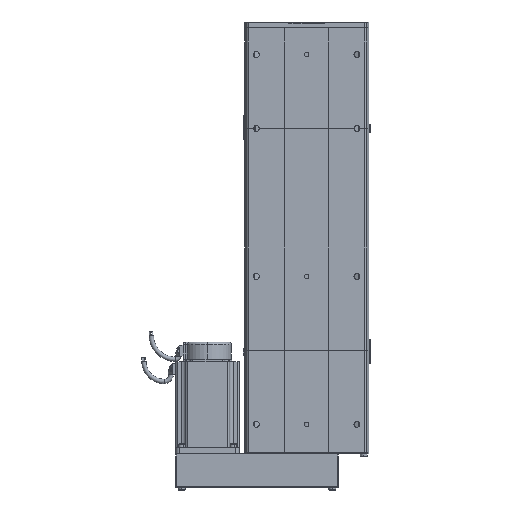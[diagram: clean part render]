
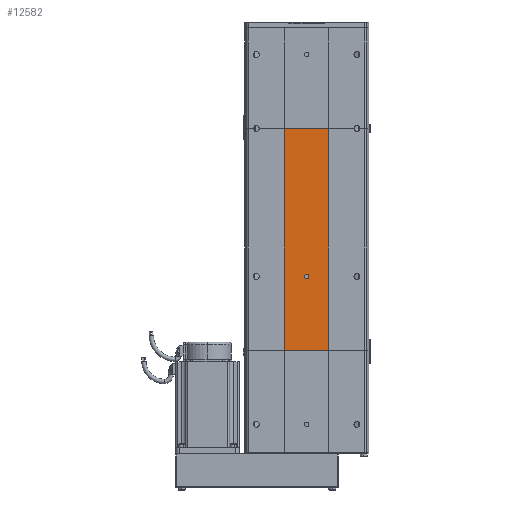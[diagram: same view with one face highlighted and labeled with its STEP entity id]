
A CAD part, front view. The second image highlights one B-rep face of the part: STEP entity #12582.
In plain terms, the highlighted planar face has unit normal (0, -1, 0).
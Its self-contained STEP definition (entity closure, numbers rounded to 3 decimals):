
#8458 = VERTEX_POINT ( 'NONE', #39665 ) ;
#8482 = VERTEX_POINT ( 'NONE', #39872 ) ;
#8485 = EDGE_CURVE ( 'NONE', #8458, #8482, #39785, .T. ) ;
#11749 = VERTEX_POINT ( 'NONE', #32986 ) ;
#12095 = EDGE_CURVE ( 'NONE', #12237, #11749, #33592, .T. ) ;
#12237 = VERTEX_POINT ( 'NONE', #33915 ) ;
#12577 = EDGE_LOOP ( 'NONE', ( #12711, #12585 ) ) ;
#12578 = EDGE_CURVE ( 'NONE', #11749, #26756, #34432, .T. ) ;
#12581 = EDGE_LOOP ( 'NONE', ( #12697, #12782, #12777, #12788 ) ) ;
#12582 = ADVANCED_FACE ( 'NONE', ( #34492, #34484 ), #34469, .F. ) ;
#12583 = EDGE_CURVE ( 'NONE', #8482, #8458, #34460, .T. ) ;
#12585 = ORIENTED_EDGE ( 'NONE', *, *, #8485, .F. ) ;
#12697 = ORIENTED_EDGE ( 'NONE', *, *, #26811, .T. ) ;
#12711 = ORIENTED_EDGE ( 'NONE', *, *, #12583, .F. ) ;
#12777 = ORIENTED_EDGE ( 'NONE', *, *, #12095, .F. ) ;
#12782 = ORIENTED_EDGE ( 'NONE', *, *, #12578, .F. ) ;
#12784 = EDGE_CURVE ( 'NONE', #12237, #26611, #34858, .T. ) ;
#12788 = ORIENTED_EDGE ( 'NONE', *, *, #12784, .T. ) ;
#26611 = VERTEX_POINT ( 'NONE', #64439 ) ;
#26756 = VERTEX_POINT ( 'NONE', #64498 ) ;
#26811 = EDGE_CURVE ( 'NONE', #26611, #26756, #64582, .T. ) ;
#32986 = CARTESIAN_POINT ( 'NONE',  ( -30., -32.5, 0. ) ) ;
#33581 = DIRECTION ( 'NONE',  ( -1., 0., 0. ) ) ;
#33582 = VECTOR ( 'NONE', #33581, 1000. ) ;
#33591 = CARTESIAN_POINT ( 'NONE',  ( -30., -32.5, 0. ) ) ;
#33592 = LINE ( 'NONE', #33591, #33582 ) ;
#33915 = CARTESIAN_POINT ( 'NONE',  ( 30., -32.5, 0. ) ) ;
#34432 = LINE ( 'NONE', #34479, #34467 ) ;
#34460 = CIRCLE ( 'NONE', #34526, 3. ) ;
#34467 = VECTOR ( 'NONE', #34478, 1000. ) ;
#34469 = PLANE ( 'NONE',  #34490 ) ;
#34478 = DIRECTION ( 'NONE',  ( 0., 0., 1. ) ) ;
#34479 = CARTESIAN_POINT ( 'NONE',  ( -30., -32.5, 0. ) ) ;
#34484 = FACE_OUTER_BOUND ( 'NONE', #12581, .T. ) ;
#34490 = AXIS2_PLACEMENT_3D ( 'NONE', #34530, #34529, #34528 ) ;
#34492 = FACE_BOUND ( 'NONE', #12577, .T. ) ;
#34523 = DIRECTION ( 'NONE',  ( 0., 0., -1. ) ) ;
#34524 = DIRECTION ( 'NONE',  ( 0., -1., 0. ) ) ;
#34525 = CARTESIAN_POINT ( 'NONE',  ( 0., -32.5, 100. ) ) ;
#34526 = AXIS2_PLACEMENT_3D ( 'NONE', #34525, #34524, #34523 ) ;
#34528 = DIRECTION ( 'NONE',  ( 0., 0., 1. ) ) ;
#34529 = DIRECTION ( 'NONE',  ( 0., 1., 0. ) ) ;
#34530 = CARTESIAN_POINT ( 'NONE',  ( -30., -32.5, 0. ) ) ;
#34855 = DIRECTION ( 'NONE',  ( 0., 0., 1. ) ) ;
#34856 = VECTOR ( 'NONE', #34855, 1000. ) ;
#34857 = CARTESIAN_POINT ( 'NONE',  ( 30., -32.5, 0. ) ) ;
#34858 = LINE ( 'NONE', #34857, #34856 ) ;
#39665 = CARTESIAN_POINT ( 'NONE',  ( 0., -32.5, 103. ) ) ;
#39785 = CIRCLE ( 'NONE', #39854, 3. ) ;
#39851 = DIRECTION ( 'NONE',  ( 0., 0., -1. ) ) ;
#39852 = DIRECTION ( 'NONE',  ( 0., -1., 0. ) ) ;
#39854 = AXIS2_PLACEMENT_3D ( 'NONE', #39867, #39852, #39851 ) ;
#39867 = CARTESIAN_POINT ( 'NONE',  ( 0., -32.5, 100. ) ) ;
#39872 = CARTESIAN_POINT ( 'NONE',  ( 0., -32.5, 97. ) ) ;
#64439 = CARTESIAN_POINT ( 'NONE',  ( 30., -32.5, 300. ) ) ;
#64498 = CARTESIAN_POINT ( 'NONE',  ( -30., -32.5, 300. ) ) ;
#64575 = DIRECTION ( 'NONE',  ( -1., 0., 0. ) ) ;
#64576 = VECTOR ( 'NONE', #64575, 1000. ) ;
#64577 = CARTESIAN_POINT ( 'NONE',  ( -30., -32.5, 300. ) ) ;
#64582 = LINE ( 'NONE', #64577, #64576 ) ;
